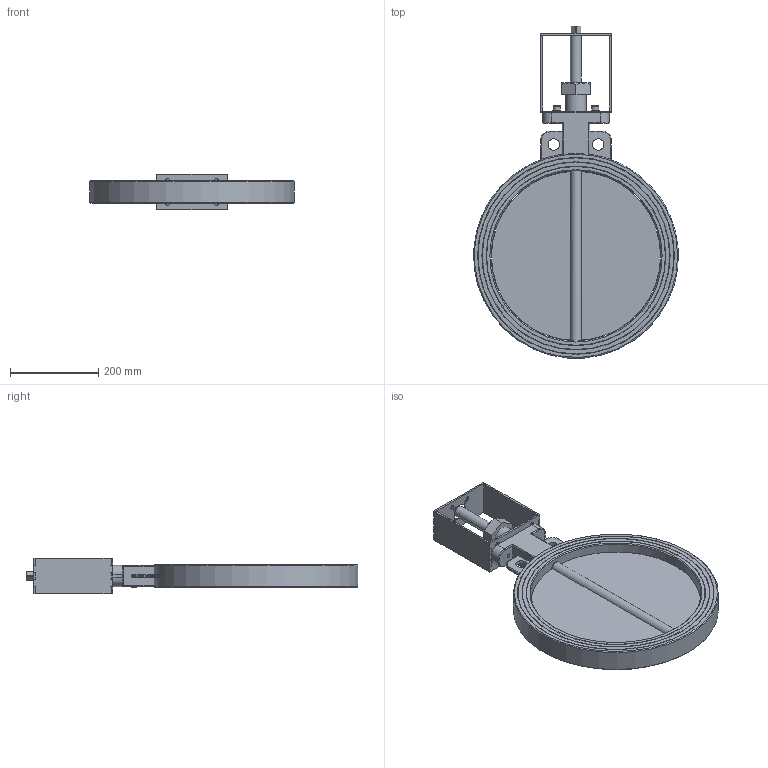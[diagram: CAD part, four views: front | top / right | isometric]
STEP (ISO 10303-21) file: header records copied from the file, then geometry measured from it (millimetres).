
FILE_DESCRIPTION(/* description */ (''),/* implementation_level */ '2;1');
FILE_NAME(/* name */ 'C:\Users\miv\Desktop\Typ 5k DN400\Typ 5k DN400.stp',/* time_stamp */ '2015-09-16T10:05:27+02:00',/* author */ ('Technik-3D'),/* organization */ (''),/* preprocessor_version */ 'ST-DEVELOPER v15.6',/* originating_system */ 'Autodesk Inventor 2015',/* authorisation */ '');
FILE_SCHEMA (('AUTOMOTIVE_DESIGN { 1 0 10303 214 3 1 1 }'));
Length unit declared in the file: millimetre
Products named in the file (13): Gussring DN400 durchschlagend; Graphitbuchse d=25; Stopfbuchse d=25 MS; Oberteil Konsole F05, F07, ST; Seitenteil F05, F07; Unterteil Konsole F04,05,07 (5k200-R4-STP); Konsole F05-07; ISO 49 Kappe T1 1 1_2; Welle oben; DN400 Ronde; DIN 127 - A 10; DIN 912 - M10 x 1,5 x 25 x 21,25; Typ 5k DN400
Bounding box: 464.06 x 753.14 x 80 mm (x, y, z)
Volume: 4174449.6 mm3; surface area: 764811.5 mm2
Topology: 15 solids, 15 shells, 404 faces, 1014 edges, 667 vertices
Faces by surface type: plane 218, cylinder 116, bspline 32, cone 26, torus 12
Full cylindrical faces by diameter (mm): 7 x4, 8.376 x2, 9 x4, 10 x2, 11 x4, 12 x2, 16 x2, 25 x3, 25.5 x3, 26 x2, 30 x1, 34.5 x1, 35 x3, 37 x1, 39 x1, 47 x1, 52 x1, 384 x1, 387 x1, 405.5 x2, 407.5 x2, 425 x2, 427 x2, 444.5 x2, 446.5 x2
Entity records: 10676 total; most frequent: CARTESIAN_POINT 2344, DIRECTION 1610, ORIENTED_EDGE 1570, EDGE_CURVE 785, AXIS2_PLACEMENT_3D 581, VERTEX_POINT 551, EDGE_LOOP 492, LINE 448
